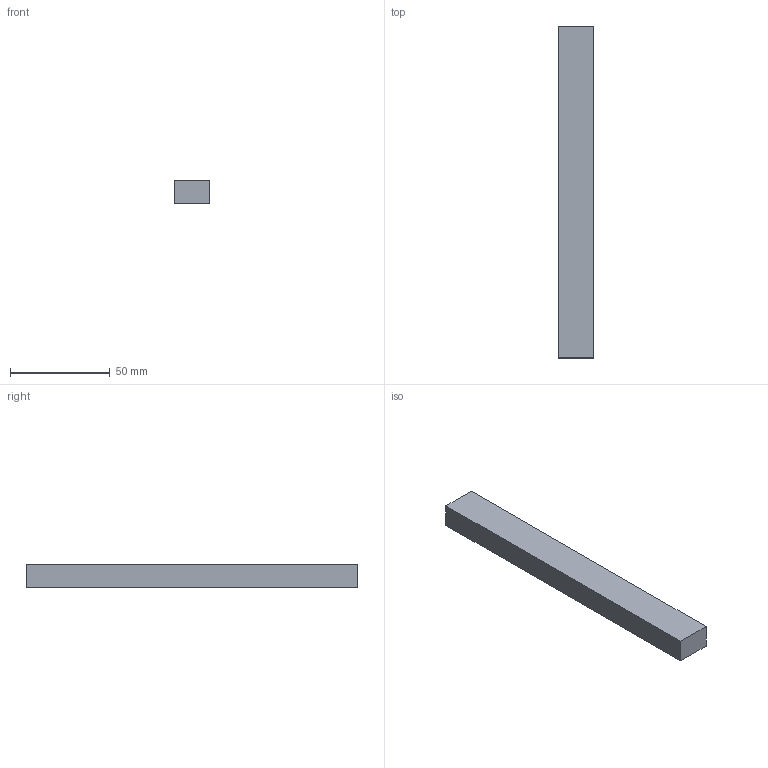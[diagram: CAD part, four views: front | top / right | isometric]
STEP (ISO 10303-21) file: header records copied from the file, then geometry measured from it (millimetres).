
FILE_DESCRIPTION(('Open CASCADE Model'),'2;1');
FILE_NAME('Open CASCADE Shape Model','2026-10-16T19:20:09',('Author'),( 'Open CASCADE'),'Open CASCADE STEP processor 7.8','Open CASCADE 7.8' ,'Unknown');
FILE_SCHEMA(('AUTOMOTIVE_DESIGN { 1 0 10303 214 1 1 1 1 }'));
Length unit declared in the file: millimetre
Products named in the file (1): Open CASCADE STEP translator 7.8 33
Bounding box: 18 x 166 x 12 mm (x, y, z)
Volume: 23861.2 mm3; surface area: 16270.9 mm2
Topology: 1 solids, 1 shells, 34 faces, 87 edges, 54 vertices
Faces by surface type: plane 33, cylinder 1
Full cylindrical faces by diameter (mm): 8 x1
Entity records: 2120 total; most frequent: CARTESIAN_POINT 398, DIRECTION 295, LINE 221, VECTOR 221, ORIENTED_EDGE 174, PCURVE 174, DEFINITIONAL_REPRESENTATION 174, EDGE_CURVE 87
